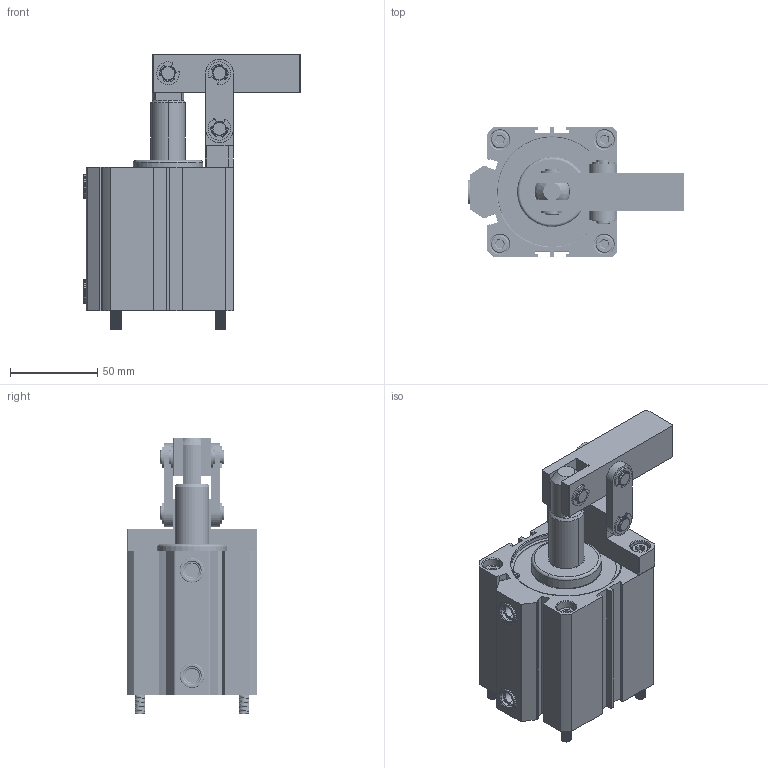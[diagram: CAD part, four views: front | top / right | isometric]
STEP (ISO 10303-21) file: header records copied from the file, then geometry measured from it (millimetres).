
FILE_DESCRIPTION(('FreeCAD Model'),'2;1');
FILE_NAME('Open CASCADE Shape Model','2021-08-17T17:01:06',('Author'),( ''),'Open CASCADE STEP processor 7.4','FreeCAD','Unknown');
FILE_SCHEMA(('AUTOMOTIVE_DESIGN { 1 0 10303 214 1 1 1 1 }'));
Length unit declared in the file: millimetre
Products named in the file (16): PLP-MS63; SOLID001; SOLID002; SOLID004; SOLID005; SOLID006; SOLID007; SOLID008; SOLID009; SOLID013; SOLID016; SOLID017; SOLID018; SOLID019; SOLID021; SOLID023
Assembly tree (26 placements, depth 2):
  PLP-MS63
    SOLID001  x2
    SOLID002  x6
    SOLID004  x2
    SOLID005  x2
    SOLID006
    SOLID007  x2
    SOLID008
    SOLID009
    SOLID013
    SOLID016
    SOLID017
    SOLID018  x2
    SOLID019
    SOLID021
    SOLID023  x2
Bounding box: 124.5 x 75 x 158.5 mm (x, y, z)
Volume: 403188.2 mm3; surface area: 145037.8 mm2
Topology: 26 solids, 26 shells, 1326 faces, 3433 edges, 2220 vertices
Faces by surface type: cylinder 803, plane 305, cone 109, torus 86, bspline 23
Entity records: 90634 total; most frequent: CARTESIAN_POINT 48788, DIRECTION 7419, ORIENTED_EDGE 4308, PCURVE 4308, DEFINITIONAL_REPRESENTATION 4308, LINE 4163, VECTOR 4163, EDGE_CURVE 2154
